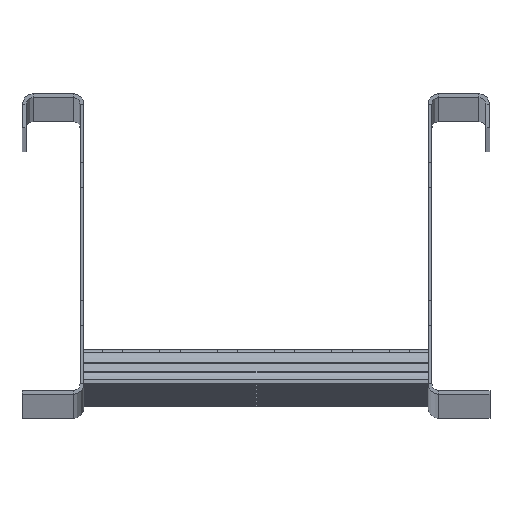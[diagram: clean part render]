
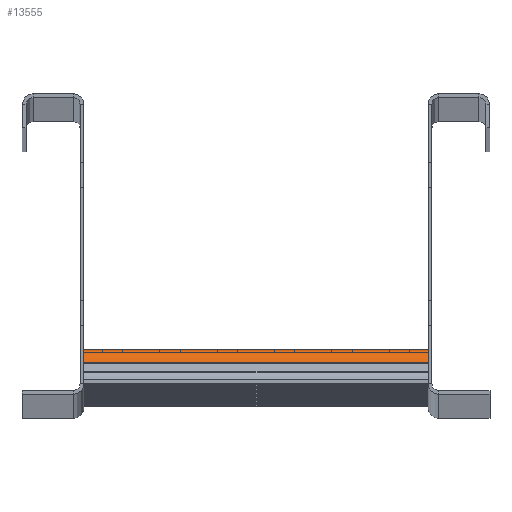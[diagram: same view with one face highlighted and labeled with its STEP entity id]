
A CAD part, top view. The second image highlights one B-rep face of the part: STEP entity #13555.
In plain terms, the highlighted cylindrical face has radius 8.1 mm (diameter 16.2 mm), a partial arc.
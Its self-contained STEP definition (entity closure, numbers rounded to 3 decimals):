
#392 = VERTEX_POINT ( 'NONE', #10972 ) ;
#589 = CARTESIAN_POINT ( 'NONE',  ( 75., 15., 7.7 ) ) ;
#1003 = EDGE_CURVE ( 'NONE', #392, #3507, #6439, .T. ) ;
#2711 = CARTESIAN_POINT ( 'NONE',  ( -75., 9.268, 15.446 ) ) ;
#3092 = CARTESIAN_POINT ( 'NONE',  ( 75., 6.9, 7.7 ) ) ;
#3424 = DIRECTION ( 'NONE',  ( -1., 0., 0. ) ) ;
#3507 = VERTEX_POINT ( 'NONE', #589 ) ;
#4248 = DIRECTION ( 'NONE',  ( 1., 0., 0. ) ) ;
#4744 = FACE_OUTER_BOUND ( 'NONE', #16549, .T. ) ;
#5706 = VECTOR ( 'NONE', #6585, 1000. ) ;
#5831 = DIRECTION ( 'NONE',  ( 1., 0., 0. ) ) ;
#6439 = CIRCLE ( 'NONE', #11604, 8.1 ) ;
#6585 = DIRECTION ( 'NONE',  ( -1., 0., 0. ) ) ;
#7045 = CARTESIAN_POINT ( 'NONE',  ( -75., 6.9, 7.7 ) ) ;
#7490 = AXIS2_PLACEMENT_3D ( 'NONE', #15715, #5831, #12845 ) ;
#8073 = CIRCLE ( 'NONE', #12374, 8.1 ) ;
#9993 = CARTESIAN_POINT ( 'NONE',  ( -75., 15., 7.7 ) ) ;
#10061 = CYLINDRICAL_SURFACE ( 'NONE', #7490, 8.1 ) ;
#10152 = EDGE_CURVE ( 'NONE', #392, #16745, #12408, .T. ) ;
#10260 = LINE ( 'NONE', #9993, #14976 ) ;
#10505 = CARTESIAN_POINT ( 'NONE',  ( -75., 15., 7.7 ) ) ;
#10780 = VERTEX_POINT ( 'NONE', #10505 ) ;
#10916 = DIRECTION ( 'NONE',  ( 0., 0., -1. ) ) ;
#10972 = CARTESIAN_POINT ( 'NONE',  ( 75., 9.268, 15.446 ) ) ;
#11068 = CARTESIAN_POINT ( 'NONE',  ( -75., 9.268, 15.446 ) ) ;
#11397 = ORIENTED_EDGE ( 'NONE', *, *, #10152, .F. ) ;
#11604 = AXIS2_PLACEMENT_3D ( 'NONE', #3092, #15568, #12784 ) ;
#12374 = AXIS2_PLACEMENT_3D ( 'NONE', #7045, #4248, #10916 ) ;
#12408 = LINE ( 'NONE', #11068, #5706 ) ;
#12784 = DIRECTION ( 'NONE',  ( 0., 0., 1. ) ) ;
#12845 = DIRECTION ( 'NONE',  ( 0., 0., -1. ) ) ;
#13275 = ORIENTED_EDGE ( 'NONE', *, *, #14359, .T. ) ;
#13555 = ADVANCED_FACE ( 'NONE', ( #4744 ), #10061, .T. ) ;
#14359 = EDGE_CURVE ( 'NONE', #10780, #16745, #8073, .T. ) ;
#14805 = ORIENTED_EDGE ( 'NONE', *, *, #1003, .T. ) ;
#14976 = VECTOR ( 'NONE', #3424, 1000. ) ;
#15568 = DIRECTION ( 'NONE',  ( -1., 0., 0. ) ) ;
#15715 = CARTESIAN_POINT ( 'NONE',  ( -150.297, 6.9, 7.7 ) ) ;
#15738 = EDGE_CURVE ( 'NONE', #3507, #10780, #10260, .T. ) ;
#16549 = EDGE_LOOP ( 'NONE', ( #17417, #13275, #11397, #14805 ) ) ;
#16745 = VERTEX_POINT ( 'NONE', #2711 ) ;
#17417 = ORIENTED_EDGE ( 'NONE', *, *, #15738, .T. ) ;
